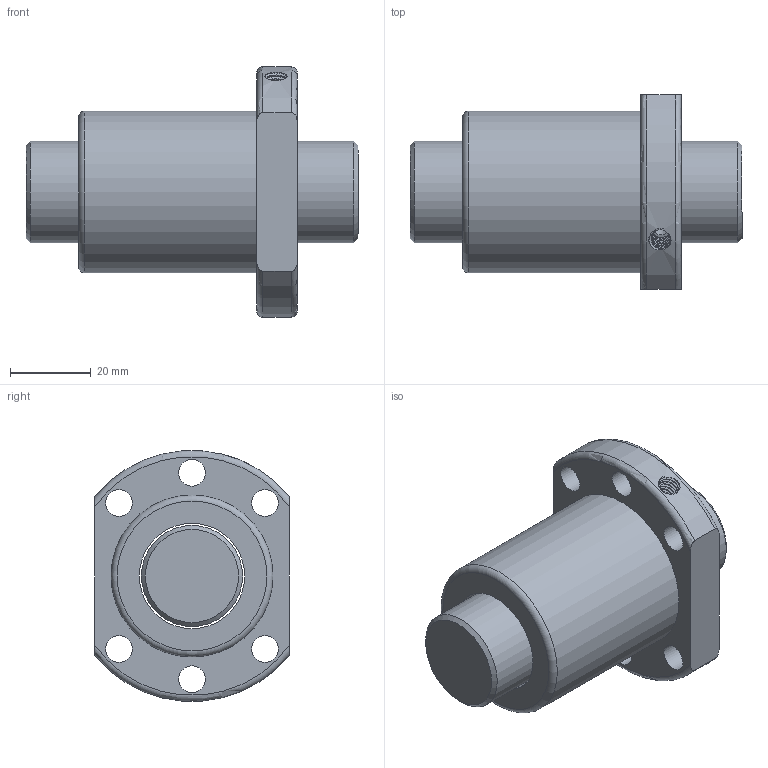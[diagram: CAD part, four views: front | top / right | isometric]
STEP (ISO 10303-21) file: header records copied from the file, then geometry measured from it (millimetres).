
FILE_DESCRIPTION(/* description */ ('Unknown','CAx-IF Rec.Pracs.---Representation and Presentation of Product Manufacturing Information (PMI)---4.0---2014-10-13','CAx-IF Rec.Pracs.---3D Tessellated Geometry---0.4---2014-09-14','2;1'),/* implementation_level */ '2;1');
FILE_NAME(/* name */ 'SFU02506',/* time_stamp */ '2020-12-07T16:45:20+08:00',/* author */ ('Unknown'),/* organization */ ('Unknown'),/* preprocessor_version */ 'ST-DEVELOPER v16.7',/* originating_system */ 'Solid Edge',/* authorisation */ 'Unknown');
FILE_SCHEMA (('AP242_MANAGED_MODEL_BASED_3D_ENGINEERING_MIM_LF { 1 0 10303 442 1 1 4 }'));
Length unit declared in the file: millimetre
Products named in the file (1): SFU02506
Bounding box: 82 x 48 x 61.8 mm (x, y, z)
Volume: 90705.8 mm3; surface area: 24301.7 mm2
Topology: 2 solids, 2 shells, 31 faces, 73 edges, 48 vertices
Faces by surface type: cylinder 14, plane 8, torus 5, bspline 2, cone 2
Full cylindrical faces by diameter (mm): 4 x1, 6.6 x6, 25 x1, 26 x1, 40 x1
Entity records: 3264 total; most frequent: CARTESIAN_POINT 2514, DIRECTION 138, ORIENTED_EDGE 118, AXIS2_PLACEMENT_3D 66, EDGE_LOOP 62, FACE_BOUND 62, EDGE_CURVE 59, VERTEX_POINT 47
